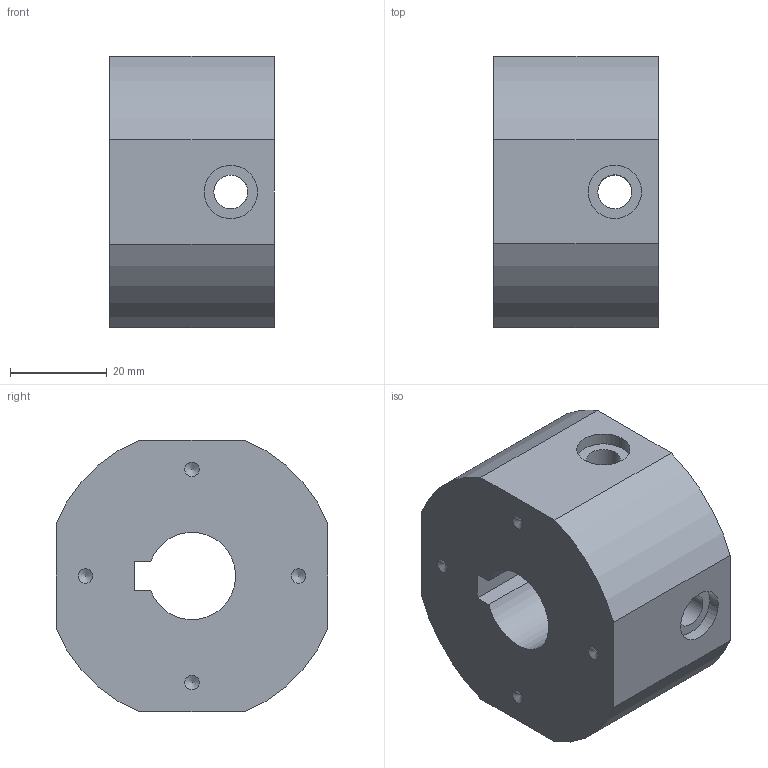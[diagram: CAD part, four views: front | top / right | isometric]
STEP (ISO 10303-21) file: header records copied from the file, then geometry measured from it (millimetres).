
FILE_DESCRIPTION(/* description */ (''),/* implementation_level */ '2;1');
FILE_NAME(/* name */ 'C:\Users\woori\Desktop\611105E1017-서포트.stp',/* time_stamp */ '2021-11-20T12:00:53+09:00',/* author */ ('woori'),/* organization */ (''),/* preprocessor_version */ 'ST-DEVELOPER v17',/* originating_system */ 'Autodesk Inventor 2018',/* authorisation */ '');
FILE_SCHEMA (('AUTOMOTIVE_DESIGN { 1 0 10303 214 3 1 1 }'));
Length unit declared in the file: millimetre
Products named in the file (1): 서포트
Bounding box: 34 x 56 x 56 mm (x, y, z)
Volume: 61042.5 mm3; surface area: 15187.1 mm2
Topology: 1 solids, 1 shells, 34 faces, 92 edges, 65 vertices
Faces by surface type: cylinder 15, plane 15, cone 4
Full cylindrical faces by diameter (mm): 7 x4, 11 x4, 35 x1, 40 x1
Entity records: 1260 total; most frequent: CARTESIAN_POINT 325, DIRECTION 187, ORIENTED_EDGE 176, EDGE_CURVE 88, AXIS2_PLACEMENT_3D 73, VERTEX_POINT 65, EDGE_LOOP 53, LINE 41
